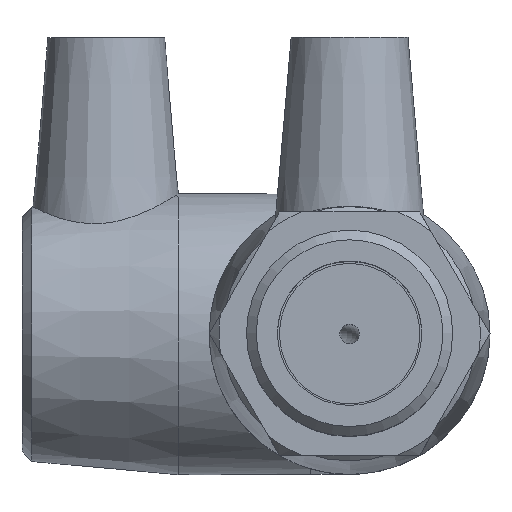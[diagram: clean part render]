
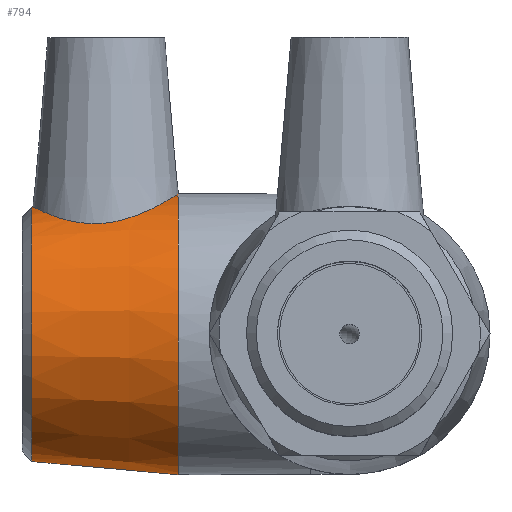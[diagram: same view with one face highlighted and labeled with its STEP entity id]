
A CAD part, top view. The second image highlights one B-rep face of the part: STEP entity #794.
In plain terms, the highlighted conical face has half-angle 5.143 degrees and reference radius 17.1 mm.
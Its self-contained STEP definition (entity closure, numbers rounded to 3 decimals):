
#78=B_SPLINE_CURVE_WITH_KNOTS('',3,(#1270,#1271,#1272,#1273,#1274,#1275,
#1276,#1277,#1278,#1279,#1280,#1281,#1282,#1283,#1284,#1285,#1286,#1287,
#1288,#1289,#1290,#1291,#1292,#1293,#1294,#1295,#1296,#1297,#1298,#1299),
 .UNSPECIFIED.,.F.,.F.,(4,2,2,2,2,2,2,2,2,2,2,2,2,2,4),(5.862,
6.037,6.211,6.561,6.913,7.264,
7.616,7.968,8.318,8.492,8.667,
9.056,9.446,9.821,10.098),
 .UNSPECIFIED.);
#79=B_SPLINE_CURVE_WITH_KNOTS('',3,(#1302,#1303,#1304,#1305,#1306,#1307,
#1308,#1309,#1310,#1311),.UNSPECIFIED.,.F.,.F.,(4,2,2,2,4),(4.43,
4.708,5.083,5.472,5.862),
 .UNSPECIFIED.);
#86=CONICAL_SURFACE('',#869,17.1,5.143);
#139=FACE_BOUND('',#249,.T.);
#179=FACE_OUTER_BOUND('',#248,.T.);
#248=EDGE_LOOP('',(#584,#585,#586));
#249=EDGE_LOOP('',(#587));
#344=CIRCLE('',#868,16.312);
#345=CIRCLE('',#870,18.);
#397=VERTEX_POINT('',#1265);
#398=VERTEX_POINT('',#1268);
#399=VERTEX_POINT('',#1269);
#400=VERTEX_POINT('',#1300);
#476=EDGE_CURVE('',#397,#397,#344,.T.);
#477=EDGE_CURVE('',#398,#399,#78,.T.);
#478=EDGE_CURVE('',#400,#399,#345,.T.);
#479=EDGE_CURVE('',#400,#398,#79,.T.);
#584=ORIENTED_EDGE('',*,*,#477,.T.);
#585=ORIENTED_EDGE('',*,*,#478,.F.);
#586=ORIENTED_EDGE('',*,*,#479,.T.);
#587=ORIENTED_EDGE('',*,*,#476,.F.);
#794=ADVANCED_FACE('',(#179,#139),#86,.T.);
#868=AXIS2_PLACEMENT_3D('',#1266,#1002,#1003);
#869=AXIS2_PLACEMENT_3D('',#1267,#1004,#1005);
#870=AXIS2_PLACEMENT_3D('',#1301,#1006,#1007);
#1002=DIRECTION('center_axis',(-1.,0.,0.));
#1003=DIRECTION('ref_axis',(0.,-1.,0.));
#1004=DIRECTION('center_axis',(1.,0.,0.));
#1005=DIRECTION('ref_axis',(0.,1.,0.));
#1006=DIRECTION('center_axis',(1.,0.,0.));
#1007=DIRECTION('ref_axis',(0.,0.,-1.));
#1265=CARTESIAN_POINT('',(-40.755,16.312,0.));
#1266=CARTESIAN_POINT('Origin',(-40.755,0.,0.));
#1267=CARTESIAN_POINT('Origin',(-32.,0.,0.));
#1268=CARTESIAN_POINT('',(-31.744,14.201,9.567));
#1269=CARTESIAN_POINT('',(-22.,17.973,-0.981));
#1270=CARTESIAN_POINT('Ctrl Pts',(-31.744,14.201,9.567));
#1271=CARTESIAN_POINT('Ctrl Pts',(-32.323,14.158,9.538));
#1272=CARTESIAN_POINT('Ctrl Pts',(-32.917,14.153,9.451));
#1273=CARTESIAN_POINT('Ctrl Pts',(-34.086,14.221,9.155));
#1274=CARTESIAN_POINT('Ctrl Pts',(-34.661,14.293,8.947));
#1275=CARTESIAN_POINT('Ctrl Pts',(-36.3,14.595,8.162));
#1276=CARTESIAN_POINT('Ctrl Pts',(-37.276,14.905,7.416));
#1277=CARTESIAN_POINT('Ctrl Pts',(-38.811,15.477,5.749));
#1278=CARTESIAN_POINT('Ctrl Pts',(-39.48,15.782,4.704));
#1279=CARTESIAN_POINT('Ctrl Pts',(-40.373,16.208,2.417));
#1280=CARTESIAN_POINT('Ctrl Pts',(-40.596,16.326,1.173));
#1281=CARTESIAN_POINT('Ctrl Pts',(-40.596,16.326,-1.173));
#1282=CARTESIAN_POINT('Ctrl Pts',(-40.373,16.208,-2.417));
#1283=CARTESIAN_POINT('Ctrl Pts',(-39.48,15.782,-4.704));
#1284=CARTESIAN_POINT('Ctrl Pts',(-38.811,15.477,-5.749));
#1285=CARTESIAN_POINT('Ctrl Pts',(-37.276,14.905,-7.416));
#1286=CARTESIAN_POINT('Ctrl Pts',(-36.3,14.595,-8.162));
#1287=CARTESIAN_POINT('Ctrl Pts',(-34.661,14.293,-8.947));
#1288=CARTESIAN_POINT('Ctrl Pts',(-34.086,14.221,-9.155));
#1289=CARTESIAN_POINT('Ctrl Pts',(-32.917,14.153,-9.451));
#1290=CARTESIAN_POINT('Ctrl Pts',(-32.323,14.158,-9.538));
#1291=CARTESIAN_POINT('Ctrl Pts',(-30.45,14.298,-9.632));
#1292=CARTESIAN_POINT('Ctrl Pts',(-29.114,14.604,-9.407));
#1293=CARTESIAN_POINT('Ctrl Pts',(-26.697,15.433,-8.437));
#1294=CARTESIAN_POINT('Ctrl Pts',(-25.611,15.943,-7.692));
#1295=CARTESIAN_POINT('Ctrl Pts',(-23.924,16.815,-5.993));
#1296=CARTESIAN_POINT('Ctrl Pts',(-23.192,17.243,-4.931));
#1297=CARTESIAN_POINT('Ctrl Pts',(-22.333,17.763,-2.867));
#1298=CARTESIAN_POINT('Ctrl Pts',(-22.095,17.913,-1.92));
#1299=CARTESIAN_POINT('Ctrl Pts',(-22.,17.973,-0.981));
#1300=CARTESIAN_POINT('',(-22.,17.973,0.981));
#1301=CARTESIAN_POINT('Origin',(-22.,0.,0.));
#1302=CARTESIAN_POINT('Ctrl Pts',(-22.,17.973,0.981));
#1303=CARTESIAN_POINT('Ctrl Pts',(-22.095,17.913,1.92));
#1304=CARTESIAN_POINT('Ctrl Pts',(-22.333,17.763,2.867));
#1305=CARTESIAN_POINT('Ctrl Pts',(-23.192,17.243,4.931));
#1306=CARTESIAN_POINT('Ctrl Pts',(-23.924,16.815,5.993));
#1307=CARTESIAN_POINT('Ctrl Pts',(-25.611,15.943,7.692));
#1308=CARTESIAN_POINT('Ctrl Pts',(-26.697,15.433,8.437));
#1309=CARTESIAN_POINT('Ctrl Pts',(-29.114,14.604,9.407));
#1310=CARTESIAN_POINT('Ctrl Pts',(-30.45,14.298,9.632));
#1311=CARTESIAN_POINT('Ctrl Pts',(-31.744,14.201,9.567));
